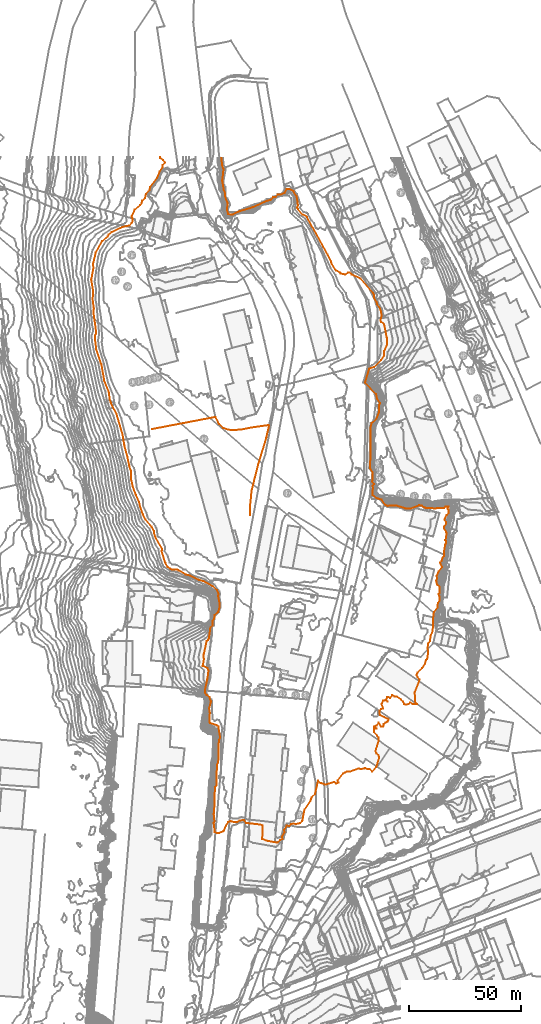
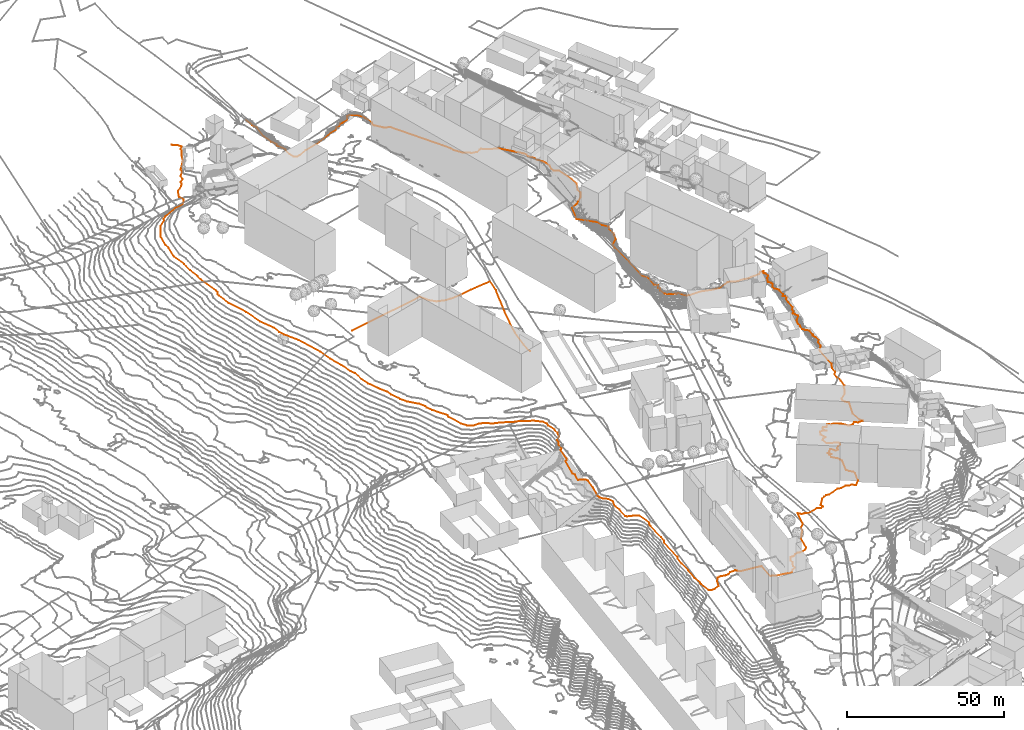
# Not in any storey, part 378 of 419: 4 proxies.
"""IFC2X3 model written with IfcOpenShell, lengths in metres."""

from ifc_helpers import new_model, entity, si_unit, frame, origin_with_axes, place, context, subcontext, project, element, save


model = new_model("IFC2X3")

# Units and contexts
model_context = context("Model", 3, precision=1e-05, world=origin_with_axes())
body_context = subcontext(model_context, "Body", "Model", "MODEL_VIEW")
ifc_project = project(units=[si_unit("AREAUNIT", "SQUARE_METRE"), si_unit("LENGTHUNIT", "METRE")], contexts=[model_context])

# Proxies
proxy_1_placement = place(None, frame((852.3920204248, 916.6976909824, 97.2), z_axis=(0.0, 0.0, 1.0), x_axis=(1.0, 0.0, 0.0)))
element("IfcBuildingElementProxy", 1, at=proxy_1_placement, Name="Route 39", ObjectType="NOTDEFINED", context=body_context, shape_type="GeometricCurveSet", body=[
    entity("IfcGeometricCurveSet", [entity("IfcPolyline", [entity("IfcCartesianPoint", [23.8999999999, -3.5999999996, -0.2]), entity("IfcCartesianPoint", [16.1, -4.7000000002, 0.0]), entity("IfcCartesianPoint", [11.6, -5.5999999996, 0.0]), entity("IfcCartesianPoint", [7.8999999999, -5.8999999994, 0.0]), entity("IfcCartesianPoint", [5.7, -5.7000000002, 0.0]), entity("IfcCartesianPoint", [3.2999999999, -4.8999999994, 0.0]), entity("IfcCartesianPoint", [1.6, -3.2000000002, 0.0]), entity("IfcCartesianPoint", [0.0, 0.0, 0.0])])]),
])
proxy_2_placement = place(None, frame((867.7920204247, 873.0976909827, 97.0), z_axis=(0.0, 0.0, 1.0), x_axis=(1.0, 0.0, 0.0)))
element("IfcBuildingElementProxy", 2, at=proxy_2_placement, Name="Route 49", ObjectType="NOTDEFINED", context=body_context, shape_type="GeometricCurveSet", body=[
    entity("IfcGeometricCurveSet", [entity("IfcPolyline", [entity("IfcCartesianPoint", [8.5, 40.0, 0.0]), entity("IfcCartesianPoint", [7.2000000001, 34.2000000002, 0.6]), entity("IfcCartesianPoint", [3.6000000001, 22.3999999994, 0.6]), entity("IfcCartesianPoint", [0.7000000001, 10.7999999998, 0.4]), entity("IfcCartesianPoint", [0.0, 3.8999999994, 0.2]), entity("IfcCartesianPoint", [0.0, 0.0, 0.0])])]),
])
proxy_3_placement = place(None, frame((824.2920204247, 911.2976909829, 97.2), z_axis=(0.0, 0.0, 1.0), x_axis=(1.0, 0.0, 0.0)))
element("IfcBuildingElementProxy", 3, at=proxy_3_placement, Name="Route 101", ObjectType="NOTDEFINED", context=body_context, shape_type="GeometricCurveSet", body=[
    entity("IfcGeometricCurveSet", [entity("IfcPolyline", [entity("IfcCartesianPoint", [28.1000000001, 5.3999999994, 0.0]), entity("IfcCartesianPoint", [0.0, 0.0, 0.0])])]),
])
proxy_4_placement = place(None, frame((797.1381722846, 977.8976909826, 95.0), z_axis=(0.0, 0.0, 1.0), x_axis=(1.0, 0.0, 0.0)))
element("IfcBuildingElementProxy", 4, at=proxy_4_placement, Name="Contour 95.0 m", ObjectType="NOTDEFINED", context=body_context, shape_type="GeometricCurveSet", body=[
    entity("IfcGeometricCurveSet", [entity("IfcPolyline", [entity("IfcCartesianPoint", [57.8646453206, 54.5, 0.0]), entity("IfcCartesianPoint", [58.2551314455, 51.0, 0.0]), entity("IfcCartesianPoint", [58.8564112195, 49.0, 0.0]), entity("IfcCartesianPoint", [58.2997611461, 44.0, 0.0]), entity("IfcCartesianPoint", [58.9538481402, 40.0444372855, 0.0]), entity("IfcCartesianPoint", [59.648938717, 38.0, 0.0]), entity("IfcCartesianPoint", [59.4914414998, 37.0, 0.0]), entity("IfcCartesianPoint", [60.6643736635, 34.0, 0.0]), entity("IfcCartesianPoint", [60.4079755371, 31.0, 0.0]), entity("IfcCartesianPoint", [60.9538481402, 29.1240337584, 0.0]), entity("IfcCartesianPoint", [61.9538481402, 28.7524751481, 0.0]), entity("IfcCartesianPoint", [62.9538481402, 28.9689915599, 0.0]), entity("IfcCartesianPoint", [65.9538481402, 30.3684200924, 0.0]), entity("IfcCartesianPoint", [71.9538481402, 32.1559621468, 0.0]), entity("IfcCartesianPoint", [77.9538481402, 34.9409102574, 0.0]), entity("IfcCartesianPoint", [79.9538481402, 35.427835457, 0.0]), entity("IfcCartesianPoint", [80.9538481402, 36.5840705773, 0.0]), entity("IfcCartesianPoint", [81.9538481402, 36.7494027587, 0.0]), entity("IfcCartesianPoint", [82.9538481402, 37.6600989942, 0.0]), entity("IfcCartesianPoint", [83.9538481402, 37.6843314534, 0.0]), entity("IfcCartesianPoint", [85.9538481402, 38.5187981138, 0.0]), entity("IfcCartesianPoint", [86.9538481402, 40.2702669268, 0.0]), entity("IfcCartesianPoint", [87.9538481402, 40.309524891, 0.0]), entity("IfcCartesianPoint", [89.9538481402, 39.274509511, 0.0]), entity("IfcCartesianPoint", [91.3050379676, 37.0, 0.0]), entity("IfcCartesianPoint", [91.587179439, 36.0, 0.0]), entity("IfcCartesianPoint", [91.9943871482, 33.0, 0.0]), entity("IfcCartesianPoint", [91.6850310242, 32.0, 0.0]), entity("IfcCartesianPoint", [91.9538481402, 31.3243293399, 0.0]), entity("IfcCartesianPoint", [93.9538481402, 28.9350613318, 0.0]), entity("IfcCartesianPoint", [95.9538481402, 27.8367327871, 0.0]), entity("IfcCartesianPoint", [105.1911367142, 11.0, 0.0]), entity("IfcCartesianPoint", [106.7479667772, 8.0, 0.0]), entity("IfcCartesianPoint", [106.9538481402, 6.9428664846, 0.0]), entity("IfcCartesianPoint", [108.8797724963, 4.0, 0.0]), entity("IfcCartesianPoint", [110.800024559, 3.0, 0.0]), entity("IfcCartesianPoint", [110.9538481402, 2.60003052, 0.0]), entity("IfcCartesianPoint", [112.9538481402, 2.2000305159, 0.0]), entity("IfcCartesianPoint", [114.287266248, 3.0, 0.0]), entity("IfcCartesianPoint", [114.9538481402, 3.0476112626, 0.0]), entity("IfcCartesianPoint", [115.9538481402, 2.1739173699, 0.0]), entity("IfcCartesianPoint", [119.9538481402, 0.3382400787, 0.0]), entity("IfcCartesianPoint", [125.4673594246, -6.0, 0.0]), entity("IfcCartesianPoint", [125.8982914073, -7.0, 0.0]), entity("IfcCartesianPoint", [125.8256447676, -8.0, 0.0]), entity("IfcCartesianPoint", [127.0371832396, -10.0, 0.0]), entity("IfcCartesianPoint", [127.2257759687, -11.0, 0.0]), entity("IfcCartesianPoint", [128.5764900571, -13.0, 0.0]), entity("IfcCartesianPoint", [128.9538481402, -14.3225782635, 0.0]), entity("IfcCartesianPoint", [129.2554345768, -16.0, 0.0]), entity("IfcCartesianPoint", [128.7276558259, -18.0, 0.0]), entity("IfcCartesianPoint", [128.9538481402, -18.9047774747, 0.0]), entity("IfcCartesianPoint", [130.4172645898, -20.0, 0.0]), entity("IfcCartesianPoint", [131.5538405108, -26.0, 0.0]), entity("IfcCartesianPoint", [131.6288500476, -29.0, 0.0]), entity("IfcCartesianPoint", [130.2822090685, -32.0, 0.0]), entity("IfcCartesianPoint", [130.2726893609, -34.0, 0.0]), entity("IfcCartesianPoint", [129.0228150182, -36.0, 0.0]), entity("IfcCartesianPoint", [125.9538481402, -38.9264661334, 0.0]), entity("IfcCartesianPoint", [123.9538481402, -39.6263760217, 0.0]), entity("IfcCartesianPoint", [123.6237542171, -40.0, 0.0]), entity("IfcCartesianPoint", [121.8381460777, -46.0, 0.0]), entity("IfcCartesianPoint", [126.7641925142, -51.0, 0.0]), entity("IfcCartesianPoint", [127.2207960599, -53.0, 0.0]), entity("IfcCartesianPoint", [128.5157529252, -55.0, 0.0]), entity("IfcCartesianPoint", [128.0317708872, -56.0, 0.0]), entity("IfcCartesianPoint", [127.993620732, -59.0, 0.0]), entity("IfcCartesianPoint", [126.9684817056, -62.0, 0.0]), entity("IfcCartesianPoint", [124.7863621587, -64.0, 0.0]), entity("IfcCartesianPoint", [124.2818490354, -66.0, 0.0]), entity("IfcCartesianPoint", [124.3930533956, -75.0, 0.0]), entity("IfcCartesianPoint", [124.0619565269, -84.0, 0.0]), entity("IfcCartesianPoint", [125.2626041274, -86.0, 0.0]), entity("IfcCartesianPoint", [125.0594201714, -90.0, 0.0]), entity("IfcCartesianPoint", [125.8407259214, -91.0, 0.0]), entity("IfcCartesianPoint", [125.251924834, -92.0, 0.0]), entity("IfcCartesianPoint", [125.4578267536, -93.0, 0.0]), entity("IfcCartesianPoint", [125.1575526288, -94.0, 0.0]), entity("IfcCartesianPoint", [125.2288473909, -96.0, 0.0]), entity("IfcCartesianPoint", [126.9538481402, -97.397553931, 0.0]), entity("IfcCartesianPoint", [129.1980336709, -98.0, 0.0]), entity("IfcCartesianPoint", [130.9538481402, -100.490098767, 0.0]), entity("IfcCartesianPoint", [131.9538481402, -100.7747241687, 0.0]), entity("IfcCartesianPoint", [135.9538481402, -100.7476194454, 0.0]), entity("IfcCartesianPoint", [139.9538481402, -101.9081090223, 0.0]), entity("IfcCartesianPoint", [141.9538481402, -102.0992347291, 0.0]), entity("IfcCartesianPoint", [145.9538481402, -100.5210081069, 0.0]), entity("IfcCartesianPoint", [146.9538481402, -100.6676648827, 0.0]), entity("IfcCartesianPoint", [147.9538481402, -101.3859655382, 0.0]), entity("IfcCartesianPoint", [148.9538481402, -101.6703295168, 0.0]), entity("IfcCartesianPoint", [150.9538481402, -101.6804126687, 0.0]), entity("IfcCartesianPoint", [152.9538481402, -102.0776717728, 0.0]), entity("IfcCartesianPoint", [153.9538481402, -101.8030315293, 0.0]), entity("IfcCartesianPoint", [156.9538481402, -101.7340432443, 0.0]), entity("IfcCartesianPoint", [157.6878913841, -101.0, 0.0]), entity("IfcCartesianPoint", [159.0628214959, -101.0, 0.0]), entity("IfcCartesianPoint", [158.499304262, -102.0, 0.0]), entity("IfcCartesianPoint", [158.9538481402, -102.4999975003, 0.0]), entity("IfcCartesianPoint", [158.9584153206, -104.0, 0.0]), entity("IfcCartesianPoint", [158.07249166, -105.0, 0.0]), entity("IfcCartesianPoint", [157.1637230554, -107.0, 0.0]), entity("IfcCartesianPoint", [157.9999006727, -108.0, 0.0]), entity("IfcCartesianPoint", [157.9538481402, -108.7000076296, 0.0]), entity("IfcCartesianPoint", [157.0633380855, -110.0, 0.0]), entity("IfcCartesianPoint", [157.0750623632, -111.0, 0.0]), entity("IfcCartesianPoint", [157.9538481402, -112.2799987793, 0.0]), entity("IfcCartesianPoint", [158.0722696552, -113.0, 0.0]), entity("IfcCartesianPoint", [157.9538481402, -115.1612974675, 0.0]), entity("IfcCartesianPoint", [157.38862498, -116.0, 0.0]), entity("IfcCartesianPoint", [157.9538481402, -116.4333379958, 0.0]), entity("IfcCartesianPoint", [157.9538481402, -117.5666620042, 0.0]), entity("IfcCartesianPoint", [157.5205101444, -118.0, 0.0]), entity("IfcCartesianPoint", [157.153846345, -120.0, 0.0]), entity("IfcCartesianPoint", [156.9538481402, -123.0568213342, 0.0]), entity("IfcCartesianPoint", [156.2735194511, -124.0, 0.0]), entity("IfcCartesianPoint", [155.9538481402, -125.3020845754, 0.0]), entity("IfcCartesianPoint", [155.2485846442, -126.0, 0.0]), entity("IfcCartesianPoint", [156.1601938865, -128.0, 0.0]), entity("IfcCartesianPoint", [154.5022336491, -130.0, 0.0]), entity("IfcCartesianPoint", [153.742310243, -132.0, 0.0]), entity("IfcCartesianPoint", [153.9538487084, -133.0, 0.0]), entity("IfcCartesianPoint", [153.5625457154, -134.0, 0.0]), entity("IfcCartesianPoint", [153.6009102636, -135.0, 0.0]), entity("IfcCartesianPoint", [154.1115050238, -136.0, 0.0]), entity("IfcCartesianPoint", [155.1151400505, -137.0, 0.0]), entity("IfcCartesianPoint", [154.9538481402, -139.596485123, 0.0]), entity("IfcCartesianPoint", [154.5705131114, -140.0, 0.0]), entity("IfcCartesianPoint", [154.9538481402, -141.2222203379, 0.0]), entity("IfcCartesianPoint", [154.9890588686, -143.0, 0.0]), entity("IfcCartesianPoint", [154.2752764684, -144.0, 0.0]), entity("IfcCartesianPoint", [154.0821895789, -146.0, 0.0]), entity("IfcCartesianPoint", [152.5307723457, -148.0, 0.0]), entity("IfcCartesianPoint", [152.2803773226, -149.0, 0.0]), entity("IfcCartesianPoint", [151.9538481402, -156.5000166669, 0.0]), entity("IfcCartesianPoint", [150.9538481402, -158.75, 0.0]), entity("IfcCartesianPoint", [150.8000080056, -161.0, 0.0]), entity("IfcCartesianPoint", [149.8938505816, -162.0, 0.0]), entity("IfcCartesianPoint", [149.7038421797, -164.0, 0.0]), entity("IfcCartesianPoint", [149.953864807, -166.0, 0.0]), entity("IfcCartesianPoint", [149.5252922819, -169.0, 0.0]), entity("IfcCartesianPoint", [148.9538481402, -169.4444350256, 0.0]), entity("IfcCartesianPoint", [148.4923187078, -171.0, 0.0]), entity("IfcCartesianPoint", [147.3110143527, -173.0, 0.0]), entity("IfcCartesianPoint", [145.1205359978, -175.0, 0.0]), entity("IfcCartesianPoint", [144.7720488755, -176.0, 0.0]), entity("IfcCartesianPoint", [145.2265628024, -177.0, 0.0]), entity("IfcCartesianPoint", [146.1205359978, -178.0, 0.0]), entity("IfcCartesianPoint", [143.9538981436, -184.0, 0.0]), entity("IfcCartesianPoint", [144.2038958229, -188.0, 0.0]), entity("IfcCartesianPoint", [144.9538731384, -189.0, 0.0]), entity("IfcCartesianPoint", [142.9538481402, -189.0000166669, 0.0]), entity("IfcCartesianPoint", [141.9538481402, -188.2500476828, 0.0]), entity("IfcCartesianPoint", [141.2038958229, -189.0, 0.0]), entity("IfcCartesianPoint", [139.9538481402, -189.285667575, 0.0]), entity("IfcCartesianPoint", [139.287266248, -189.0, 0.0]), entity("IfcCartesianPoint", [138.8538252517, -188.0, 0.0]), entity("IfcCartesianPoint", [137.9538481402, -187.0000111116, 0.0]), entity("IfcCartesianPoint", [135.9538481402, -185.666666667, 0.0]), entity("IfcCartesianPoint", [134.9538481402, -185.6250238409, 0.0]), entity("IfcCartesianPoint", [133.9538481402, -185.0000500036, 0.0]), entity("IfcCartesianPoint", [132.9538481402, -186.2500476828, 0.0]), entity("IfcCartesianPoint", [131.9538481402, -185.7999694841, 0.0]), entity("IfcCartesianPoint", [131.7038004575, -186.0, 0.0]), entity("IfcCartesianPoint", [131.287266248, -187.0, 0.0]), entity("IfcCartesianPoint", [131.9538481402, -188.0000500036, 0.0]), entity("IfcCartesianPoint", [130.9538481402, -187.3334181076, 0.0]), entity("IfcCartesianPoint", [129.9538481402, -187.5000499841, 0.0]), entity("IfcCartesianPoint", [129.2038958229, -189.0, 0.0]), entity("IfcCartesianPoint", [129.9538981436, -191.0, 0.0]), entity("IfcCartesianPoint", [128.9538481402, -191.1666878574, 0.0]), entity("IfcCartesianPoint", [128.2395157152, -192.0, 0.0]), entity("IfcCartesianPoint", [128.4538731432, -194.0, 0.0]), entity("IfcCartesianPoint", [131.9538481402, -195.5714441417, 0.0]), entity("IfcCartesianPoint", [132.2538405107, -196.0, 0.0]), entity("IfcCartesianPoint", [131.9538481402, -196.7499523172, 0.0]), entity("IfcCartesianPoint", [130.9538481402, -197.2000305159, 0.0]), entity("IfcCartesianPoint", [130.1538786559, -198.0, 0.0]), entity("IfcCartesianPoint", [129.9538481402, -199.0000199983, 0.0]), entity("IfcCartesianPoint", [128.9537481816, -199.0, 0.0]), entity("IfcCartesianPoint", [127.9538481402, -197.3334181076, 0.0]), entity("IfcCartesianPoint", [126.9538481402, -198.5000499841, 0.0]), entity("IfcCartesianPoint", [125.9539480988, -199.0, 0.0]), entity("IfcCartesianPoint", [126.9539480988, -200.0, 0.0]), entity("IfcCartesianPoint", [125.9538481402, -200.0000999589, 0.0]), entity("IfcCartesianPoint", [125.9538481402, -201.4999500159, 0.0]), entity("IfcCartesianPoint", [127.2871390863, -203.0, 0.0]), entity("IfcCartesianPoint", [127.8109598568, -204.0, 0.0]), entity("IfcCartesianPoint", [127.9538681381, -205.0, 0.0]), entity("IfcCartesianPoint", [126.4538731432, -210.0, 0.0]), entity("IfcCartesianPoint", [126.9538481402, -210.9999499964, 0.0]), entity("IfcCartesianPoint", [127.9538481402, -211.9999000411, 0.0]), entity("IfcCartesianPoint", [128.0967364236, -213.0, 0.0]), entity("IfcCartesianPoint", [126.8109598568, -217.0, 0.0]), entity("IfcCartesianPoint", [124.9538481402, -219.0000058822, 0.0]), entity("IfcCartesianPoint", [123.9538481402, -218.0000249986, 0.0]), entity("IfcCartesianPoint", [122.9538481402, -218.0000142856, 0.0]), entity("IfcCartesianPoint", [121.9538481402, -217.60003052, 0.0]), entity("IfcCartesianPoint", [119.9538481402, -218.0000058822, 0.0]), entity("IfcCartesianPoint", [118.9538481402, -217.666666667, 0.0]), entity("IfcCartesianPoint", [114.9538481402, -219.1250238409, 0.0]), entity("IfcCartesianPoint", [113.9538481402, -219.0000166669, 0.0]), entity("IfcCartesianPoint", [112.9538481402, -219.39996948, 0.0]), entity("IfcCartesianPoint", [111.9538481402, -220.0000166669, 0.0]), entity("IfcCartesianPoint", [109.5788719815, -223.0, 0.0]), entity("IfcCartesianPoint", [109.9538581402, -224.0, 0.0]), entity("IfcCartesianPoint", [108.9538481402, -224.285667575, 0.0]), entity("IfcCartesianPoint", [107.9538481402, -223.7000076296, 0.0]), entity("IfcCartesianPoint", [103.9538481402, -224.8749761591, 0.0]), entity("IfcCartesianPoint", [102.9538481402, -224.3332909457, 0.0]), entity("IfcCartesianPoint", [101.9538481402, -224.1817992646, 0.0]), entity("IfcCartesianPoint", [100.9538481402, -223.1250238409, 0.0]), entity("IfcCartesianPoint", [99.5538481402, -229.0, 0.0]), entity("IfcCartesianPoint", [97.9538481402, -230.666666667, 0.0]), entity("IfcCartesianPoint", [97.6009175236, -232.0, 0.0]), entity("IfcCartesianPoint", [94.8806796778, -236.0, 0.0]), entity("IfcCartesianPoint", [93.8983008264, -241.0, 0.0]), entity("IfcCartesianPoint", [92.9538481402, -242.000001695, 0.0]), entity("IfcCartesianPoint", [90.9538481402, -242.4623657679, 0.0]), entity("IfcCartesianPoint", [89.9538481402, -242.1931803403, 0.0]), entity("IfcCartesianPoint", [88.9538481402, -242.4277113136, 0.0]), entity("IfcCartesianPoint", [87.9538481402, -243.2962965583, 0.0]), entity("IfcCartesianPoint", [86.9538481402, -243.0887581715, 0.0]), entity("IfcCartesianPoint", [85.8649576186, -245.0, 0.0]), entity("IfcCartesianPoint", [85.9603854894, -246.0, 0.0]), entity("IfcCartesianPoint", [84.9797092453, -248.0, 0.0]), entity("IfcCartesianPoint", [85.0636759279, -249.0, 0.0]), entity("IfcCartesianPoint", [83.9538481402, -249.4880972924, 0.0]), entity("IfcCartesianPoint", [82.9538481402, -250.7036974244, 0.0]), entity("IfcCartesianPoint", [77.9538481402, -249.8421105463, 0.0]), entity("IfcCartesianPoint", [76.0714767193, -249.0, 0.0]), entity("IfcCartesianPoint", [76.3067787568, -243.0, 0.0]), entity("IfcCartesianPoint", [74.9538481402, -242.6229456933, 0.0]), entity("IfcCartesianPoint", [68.9538481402, -241.9516144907, 0.0]), entity("IfcCartesianPoint", [67.9538481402, -240.6692313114, 0.0]), entity("IfcCartesianPoint", [65.9538481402, -240.8119644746, 0.0]), entity("IfcCartesianPoint", [64.9538481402, -241.5045020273, 0.0]), entity("IfcCartesianPoint", [63.9538481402, -241.641301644, 0.0]), entity("IfcCartesianPoint", [61.9538481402, -241.1612891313, 0.0]), entity("IfcCartesianPoint", [60.9538481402, -241.4666598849, 0.0]), entity("IfcCartesianPoint", [59.9181260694, -243.0, 0.0]), entity("IfcCartesianPoint", [58.9538481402, -245.5833174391, 0.0]), entity("IfcCartesianPoint", [56.9538481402, -246.3332909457, 0.0]), entity("IfcCartesianPoint", [55.9538481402, -246.4000152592, 0.0]), entity("IfcCartesianPoint", [54.9538437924, -246.0, 0.0]), entity("IfcCartesianPoint", [54.5252786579, -242.0, 0.0]), entity("IfcCartesianPoint", [54.7951197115, -241.0, 0.0]), entity("IfcCartesianPoint", [54.5307682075, -238.0, 0.0]), entity("IfcCartesianPoint", [54.9189658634, -233.0, 0.0]), entity("IfcCartesianPoint", [54.8879125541, -229.0, 0.0]), entity("IfcCartesianPoint", [55.1833551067, -226.0, 0.0]), entity("IfcCartesianPoint", [55.679123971, -225.0, 0.0]), entity("IfcCartesianPoint", [55.9439801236, -216.0, 0.0]), entity("IfcCartesianPoint", [56.4225973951, -215.0, 0.0]), entity("IfcCartesianPoint", [56.6461558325, -213.0, 0.0]), entity("IfcCartesianPoint", [56.7612248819, -206.0, 0.0]), entity("IfcCartesianPoint", [56.8678274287, -205.0, 0.0]), entity("IfcCartesianPoint", [57.3733600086, -204.0, 0.0]), entity("IfcCartesianPoint", [56.5738432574, -199.0, 0.0]), entity("IfcCartesianPoint", [55.9538481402, -198.4918077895, 0.0]), entity("IfcCartesianPoint", [52.9538481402, -197.4583350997, 0.0]), entity("IfcCartesianPoint", [52.610095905, -197.0, 0.0]), entity("IfcCartesianPoint", [52.7651674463, -193.0, 0.0]), entity("IfcCartesianPoint", [52.4678698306, -191.0, 0.0]), entity("IfcCartesianPoint", [53.2133438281, -188.0, 0.0]), entity("IfcCartesianPoint", [52.5477040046, -186.0, 0.0]), entity("IfcCartesianPoint", [51.3339216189, -185.0, 0.0]), entity("IfcCartesianPoint", [50.7105021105, -184.0, 0.0]), entity("IfcCartesianPoint", [50.5361247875, -183.0, 0.0]), entity("IfcCartesianPoint", [51.6343995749, -178.0, 0.0]), entity("IfcCartesianPoint", [52.1607443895, -174.0, 0.0]), entity("IfcCartesianPoint", [51.7663555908, -173.0, 0.0]), entity("IfcCartesianPoint", [49.5720284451, -172.0, 0.0]), entity("IfcCartesianPoint", [50.1653860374, -169.0, 0.0]), entity("IfcCartesianPoint", [49.8668894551, -168.0, 0.0]), entity("IfcCartesianPoint", [50.0602373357, -167.0, 0.0]), entity("IfcCartesianPoint", [51.3222702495, -161.0, 0.0]), entity("IfcCartesianPoint", [51.9538481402, -160.6129036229, 0.0]), entity("IfcCartesianPoint", [52.2901297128, -160.0, 0.0]), entity("IfcCartesianPoint", [53.0079033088, -155.0, 0.0]), entity("IfcCartesianPoint", [53.8849714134, -154.0, 0.0]), entity("IfcCartesianPoint", [53.94000699, -152.0, 0.0]), entity("IfcCartesianPoint", [54.6484089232, -151.0, 0.0]), entity("IfcCartesianPoint", [54.9538481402, -149.4057376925, 0.0]), entity("IfcCartesianPoint", [56.4729093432, -148.0, 0.0]), entity("IfcCartesianPoint", [57.0219096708, -146.0, 0.0]), entity("IfcCartesianPoint", [57.0851621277, -144.0, 0.0]), entity("IfcCartesianPoint", [56.4881618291, -141.0, 0.0]), entity("IfcCartesianPoint", [56.6767395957, -140.0, 0.0]), entity("IfcCartesianPoint", [55.9538481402, -138.3660738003, 0.0]), entity("IfcCartesianPoint", [53.9538481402, -136.56565532, 0.0]), entity("IfcCartesianPoint", [49.9538481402, -134.358698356, 0.0]), entity("IfcCartesianPoint", [47.9538481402, -133.8080794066, 0.0]), entity("IfcCartesianPoint", [43.9538481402, -131.90178541, 0.0]), entity("IfcCartesianPoint", [41.9538481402, -131.3027528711, 0.0]), entity("IfcCartesianPoint", [38.9538481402, -129.4868443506, 0.0]), entity("IfcCartesianPoint", [37.9538481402, -129.103444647, 0.0]), entity("IfcCartesianPoint", [35.9538481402, -129.1122451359, 0.0]), entity("IfcCartesianPoint", [34.9538481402, -128.7419307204, 0.0]), entity("IfcCartesianPoint", [34.0338499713, -128.0, 0.0]), entity("IfcCartesianPoint", [32.9538481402, -126.2571335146, 0.0]), entity("IfcCartesianPoint", [31.2995266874, -121.0, 0.0]), entity("IfcCartesianPoint", [31.5975271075, -120.0, 0.0]), entity("IfcCartesianPoint", [28.6328599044, -115.0, 0.0]), entity("IfcCartesianPoint", [27.898289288, -113.0, 0.0]), entity("IfcCartesianPoint", [27.8379038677, -112.0, 0.0]), entity("IfcCartesianPoint", [26.8270925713, -110.0, 0.0]), entity("IfcCartesianPoint", [24.1882257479, -107.0, 0.0]), entity("IfcCartesianPoint", [22.9538481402, -104.6799926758, 0.0]), entity("IfcCartesianPoint", [21.7006852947, -101.0, 0.0]), entity("IfcCartesianPoint", [21.3248196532, -99.0, 0.0]), entity("IfcCartesianPoint", [19.868482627, -96.0, 0.0]), entity("IfcCartesianPoint", [18.4215894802, -92.0, 0.0]), entity("IfcCartesianPoint", [17.7947574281, -89.0, 0.0]), entity("IfcCartesianPoint", [17.596703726, -85.0, 0.0]), entity("IfcCartesianPoint", [16.9538481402, -83.3888865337, 0.0]), entity("IfcCartesianPoint", [16.1151372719, -79.0, 0.0]), entity("IfcCartesianPoint", [14.7259999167, -74.0, 0.0]), entity("IfcCartesianPoint", [13.9538465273, -69.0, 0.0]), entity("IfcCartesianPoint", [11.2538481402, -60.0, 0.0]), entity("IfcCartesianPoint", [8.7538461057, -55.0, 0.0]), entity("IfcCartesianPoint", [8.1705107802, -53.0, 0.0]), entity("IfcCartesianPoint", [7.7747411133, -50.0, 0.0]), entity("IfcCartesianPoint", [5.7871800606, -45.0, 0.0]), entity("IfcCartesianPoint", [4.5296050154, -38.0, 0.0]), entity("IfcCartesianPoint", [2.2070109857, -31.0, 0.0]), entity("IfcCartesianPoint", [1.582418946, -26.0, 0.0]), entity("IfcCartesianPoint", [1.6435037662, -25.0, 0.0]), entity("IfcCartesianPoint", [2.1538457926, -24.0, 0.0]), entity("IfcCartesianPoint", [2.1380573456, -23.0, 0.0]), entity("IfcCartesianPoint", [1.0115384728, -15.0, 0.0]), entity("IfcCartesianPoint", [1.1380573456, -13.0, 0.0]), entity("IfcCartesianPoint", [0.6351670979, -9.0, 0.0]), entity("IfcCartesianPoint", [0.7850198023, -5.0, 0.0]), entity("IfcCartesianPoint", [0.0, 0.0, 0.0]), entity("IfcCartesianPoint", [0.9382197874, 5.0, 0.0]), entity("IfcCartesianPoint", [0.8504030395, 7.0, 0.0]), entity("IfcCartesianPoint", [1.9538466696, 12.0, 0.0]), entity("IfcCartesianPoint", [4.7633667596, 17.0, 0.0]), entity("IfcCartesianPoint", [7.2205181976, 19.0, 0.0]), entity("IfcCartesianPoint", [7.7099470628, 20.0, 0.0]), entity("IfcCartesianPoint", [8.9334358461, 21.0, 0.0]), entity("IfcCartesianPoint", [13.9538481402, 23.3561656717, 0.0]), entity("IfcCartesianPoint", [16.9538481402, 24.0188719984, 0.0]), entity("IfcCartesianPoint", [17.9788533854, 25.0, 0.0]), entity("IfcCartesianPoint", [18.4311161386, 26.0, 0.0]), entity("IfcCartesianPoint", [18.4133087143, 27.0, 0.0]), entity("IfcCartesianPoint", [17.9538481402, 28.0000199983, 0.0]), entity("IfcCartesianPoint", [19.3174908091, 31.0, 0.0]), entity("IfcCartesianPoint", [21.6538557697, 33.0, 0.0]), entity("IfcCartesianPoint", [22.4538381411, 34.0, 0.0]), entity("IfcCartesianPoint", [22.5902054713, 35.0, 0.0]), entity("IfcCartesianPoint", [23.9538481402, 36.1428882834, 0.0]), entity("IfcCartesianPoint", [24.2986759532, 38.0, 0.0]), entity("IfcCartesianPoint", [25.9538481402, 39.855074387, 0.0]), entity("IfcCartesianPoint", [26.1223254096, 41.0, 0.0]), entity("IfcCartesianPoint", [29.1989469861, 45.0, 0.0]), entity("IfcCartesianPoint", [30.427526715, 48.0, 0.0]), entity("IfcCartesianPoint", [31.6871780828, 50.0, 0.0]), entity("IfcCartesianPoint", [31.7663511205, 51.0, 0.0]), entity("IfcCartesianPoint", [32.7872026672, 52.0, 0.0]), entity("IfcCartesianPoint", [31.9538481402, 53.2000305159, 0.0]), entity("IfcCartesianPoint", [30.5788719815, 54.0, 0.0]), entity("IfcCartesianPoint", [30.5788719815, 54.5, 0.0])])]),
])

save(model, "model.ifc")
